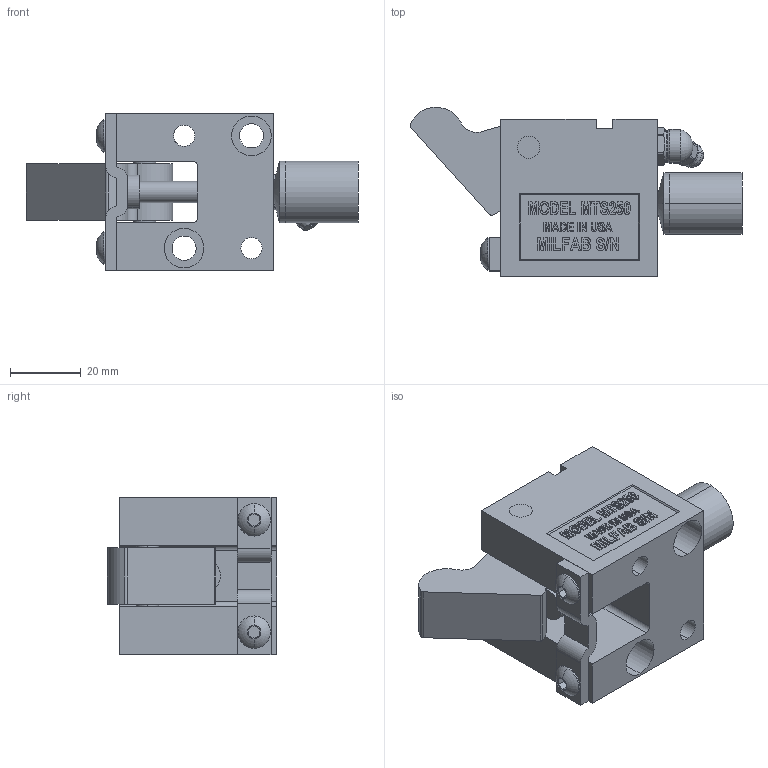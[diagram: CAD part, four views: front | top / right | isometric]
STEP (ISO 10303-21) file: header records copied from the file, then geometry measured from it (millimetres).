
FILE_DESCRIPTION (( 'STEP AP214' ), '1' );
FILE_NAME ('MTS25045-O.STEP', '2014-01-07T23:11:20', ( 'user' ), ( '' ), 'SwSTEP 2.0', 'SolidWorks 2009', '' );
FILE_SCHEMA (( 'AUTOMOTIVE_DESIGN' ));
Length unit declared in the file: inch
Products named in the file (11): 250 STRIPPER OPEN; 250-OFFSET TRIGGER; MTS25045-O; M-I-250-POINT; MS250-PUNCH; MTS250-BODY; 250-I-STRAP; 250 PIVOT PIN; 250-WASHER; GREASE ZERK; 10-SCREW
Assembly tree (11 placements, depth 2):
  MTS25045-O
    10-SCREW  x2
    MTS250-BODY
    MS250-PUNCH
    250-WASHER
    250-OFFSET TRIGGER
    GREASE ZERK
    250 PIVOT PIN
    250-I-STRAP
    M-I-250-POINT
    250 STRIPPER OPEN
Bounding box: 93.85 x 47.85 x 44.45 mm (x, y, z)
Volume: 78375.2 mm3; surface area: 29280.3 mm2
Topology: 11 solids, 11 shells, 594 faces, 1534 edges, 1006 vertices
Faces by surface type: plane 348, bspline 100, cylinder 92, cone 30, torus 24
Entity records: 23751 total; most frequent: CARTESIAN_POINT 9797, ORIENTED_EDGE 2984, DIRECTION 2400, EDGE_CURVE 1492, VECTOR 992, LINE 992, VERTEX_POINT 982, AXIS2_PLACEMENT_3D 704
